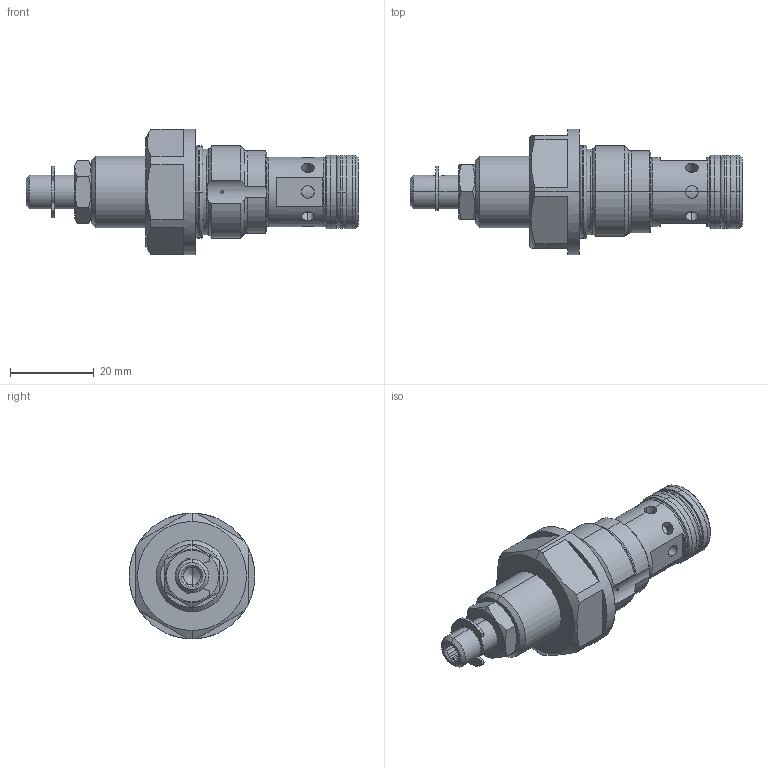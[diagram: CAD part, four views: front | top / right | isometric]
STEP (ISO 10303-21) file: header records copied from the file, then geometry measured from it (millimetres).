
FILE_DESCRIPTION (( 'STEP AP214' ), '1' );
FILE_NAME ('BVSPM22-K9.STEP', '2019-02-27T13:46:02', ( '' ), ( '' ), 'SwSTEP 2.0', 'SolidWorks 2018', '' );
FILE_SCHEMA (( 'AUTOMOTIVE_DESIGN' ));
Length unit declared in the file: millimetre
Products named in the file (1): BVSPM22-K9
Bounding box: 79.2 x 30 x 30 mm (x, y, z)
Volume: 21308.5 mm3; surface area: 8145.4 mm2
Topology: 6 solids, 6 shells, 251 faces, 584 edges, 361 vertices
Faces by surface type: cylinder 98, plane 70, cone 40, torus 27, bspline 16
Entity records: 10973 total; most frequent: CARTESIAN_POINT 2581, DIRECTION 1226, ORIENTED_EDGE 1160, EDGE_CURVE 580, AXIS2_PLACEMENT_3D 512, VERTEX_POINT 361, EDGE_LOOP 279, CIRCLE 276
